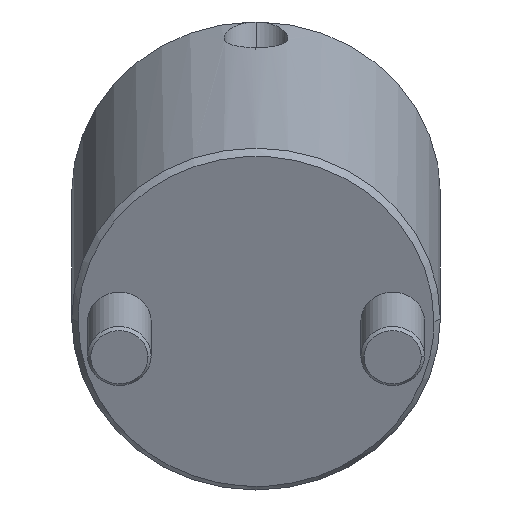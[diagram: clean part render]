
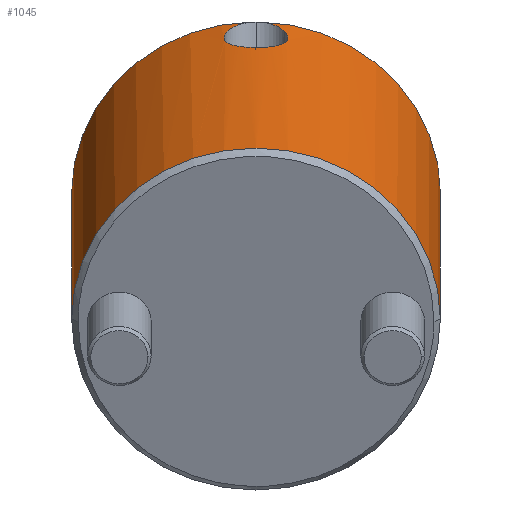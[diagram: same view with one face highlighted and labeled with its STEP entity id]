
A CAD part, front view. The second image highlights one B-rep face of the part: STEP entity #1045.
In plain terms, the highlighted cylindrical face has radius 29 mm (diameter 58 mm), a partial arc.
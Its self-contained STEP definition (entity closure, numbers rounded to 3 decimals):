
#772=CARTESIAN_POINT('Vertex',(0.,29.,1.)) ;
#775=CARTESIAN_POINT('Axis2P3D Location',(0.,0.,1.)) ;
#779=CARTESIAN_POINT('Vertex',(0.,-29.,1.)) ;
#931=CARTESIAN_POINT('Axis2P3D Location',(0.,0.,-2.75)) ;
#936=CARTESIAN_POINT('Axis2P3D Location',(0.,0.,54.)) ;
#940=CARTESIAN_POINT('Vertex',(28.994,-0.6,54.)) ;
#942=CARTESIAN_POINT('Vertex',(0.,-29.,54.)) ;
#945=CARTESIAN_POINT('Line Origine',(0.,-29.,-2.75)) ;
#950=CARTESIAN_POINT('Line Origine',(0.,29.,-2.75)) ;
#954=CARTESIAN_POINT('Vertex',(0.,29.,54.)) ;
#957=CARTESIAN_POINT('Axis2P3D Location',(0.,0.,54.)) ;
#961=CARTESIAN_POINT('Vertex',(28.994,0.6,54.)) ;
#965=CARTESIAN_POINT('Control Point',(28.994,0.6,54.)) ;
#966=CARTESIAN_POINT('Control Point',(28.985,1.008,53.943)) ;
#967=CARTESIAN_POINT('Control Point',(28.97,1.41,53.839)) ;
#968=CARTESIAN_POINT('Control Point',(28.948,1.802,53.688)) ;
#969=CARTESIAN_POINT('Control Point',(28.906,2.374,53.389)) ;
#970=CARTESIAN_POINT('Control Point',(28.856,2.896,52.996)) ;
#971=CARTESIAN_POINT('Control Point',(28.838,3.065,52.854)) ;
#972=CARTESIAN_POINT('Control Point',(28.793,3.477,52.468)) ;
#973=CARTESIAN_POINT('Control Point',(28.745,3.843,52.022)) ;
#974=CARTESIAN_POINT('Control Point',(28.717,4.046,51.733)) ;
#975=CARTESIAN_POINT('Control Point',(28.664,4.406,51.121)) ;
#976=CARTESIAN_POINT('Control Point',(28.621,4.673,50.461)) ;
#977=CARTESIAN_POINT('Control Point',(28.603,4.782,50.123)) ;
#978=CARTESIAN_POINT('Control Point',(28.575,4.948,49.432)) ;
#979=CARTESIAN_POINT('Control Point',(28.564,5.011,48.723)) ;
#980=CARTESIAN_POINT('Control Point',(28.563,5.015,48.368)) ;
#981=CARTESIAN_POINT('Control Point',(28.57,4.978,47.786)) ;
#982=CARTESIAN_POINT('Control Point',(28.588,4.869,47.223)) ;
#983=CARTESIAN_POINT('Control Point',(28.598,4.815,47.003)) ;
#984=CARTESIAN_POINT('Control Point',(28.62,4.683,46.572)) ;
#985=CARTESIAN_POINT('Control Point',(28.648,4.509,46.159)) ;
#986=CARTESIAN_POINT('Control Point',(28.663,4.411,45.958)) ;
#987=CARTESIAN_POINT('Control Point',(28.695,4.196,45.571)) ;
#988=CARTESIAN_POINT('Control Point',(28.731,3.943,45.212)) ;
#989=CARTESIAN_POINT('Control Point',(28.75,3.806,45.04)) ;
#990=CARTESIAN_POINT('Control Point',(28.806,3.372,44.548)) ;
#991=CARTESIAN_POINT('Control Point',(28.861,2.864,44.135)) ;
#992=CARTESIAN_POINT('Control Point',(28.896,2.496,43.899)) ;
#993=CARTESIAN_POINT('Control Point',(28.95,1.794,43.551)) ;
#994=CARTESIAN_POINT('Control Point',(28.984,1.039,43.348)) ;
#995=CARTESIAN_POINT('Control Point',(28.995,0.694,43.286)) ;
#996=CARTESIAN_POINT('Control Point',(29.,0.348,43.256)) ;
#997=CARTESIAN_POINT('Control Point',(29.,0.,43.256)) ;
#998=CARTESIAN_POINT('Vertex',(29.,0.,43.256)) ;
#1002=CARTESIAN_POINT('Control Point',(29.,0.,43.256)) ;
#1003=CARTESIAN_POINT('Control Point',(29.,-0.217,43.256)) ;
#1004=CARTESIAN_POINT('Control Point',(28.998,-0.433,43.268)) ;
#1005=CARTESIAN_POINT('Control Point',(28.994,-0.648,43.291)) ;
#1006=CARTESIAN_POINT('Control Point',(28.979,-1.182,43.38)) ;
#1007=CARTESIAN_POINT('Control Point',(28.953,-1.701,43.54)) ;
#1008=CARTESIAN_POINT('Control Point',(28.933,-2.002,43.661)) ;
#1009=CARTESIAN_POINT('Control Point',(28.896,-2.487,43.905)) ;
#1010=CARTESIAN_POINT('Control Point',(28.852,-2.933,44.213)) ;
#1011=CARTESIAN_POINT('Control Point',(28.834,-3.105,44.346)) ;
#1012=CARTESIAN_POINT('Control Point',(28.778,-3.599,44.773)) ;
#1013=CARTESIAN_POINT('Control Point',(28.722,-4.021,45.282)) ;
#1014=CARTESIAN_POINT('Control Point',(28.686,-4.265,45.65)) ;
#1015=CARTESIAN_POINT('Control Point',(28.638,-4.571,46.246)) ;
#1016=CARTESIAN_POINT('Control Point',(28.603,-4.782,46.886)) ;
#1017=CARTESIAN_POINT('Control Point',(28.593,-4.841,47.105)) ;
#1018=CARTESIAN_POINT('Control Point',(28.568,-4.986,47.778)) ;
#1019=CARTESIAN_POINT('Control Point',(28.561,-5.029,48.48)) ;
#1020=CARTESIAN_POINT('Control Point',(28.564,-5.008,48.955)) ;
#1021=CARTESIAN_POINT('Control Point',(28.591,-4.856,50.013)) ;
#1022=CARTESIAN_POINT('Control Point',(28.653,-4.482,51.003)) ;
#1023=CARTESIAN_POINT('Control Point',(28.697,-4.202,51.538)) ;
#1024=CARTESIAN_POINT('Control Point',(28.764,-3.725,52.213)) ;
#1025=CARTESIAN_POINT('Control Point',(28.829,-3.155,52.773)) ;
#1026=CARTESIAN_POINT('Control Point',(28.846,-2.988,52.919)) ;
#1027=CARTESIAN_POINT('Control Point',(28.881,-2.643,53.192)) ;
#1028=CARTESIAN_POINT('Control Point',(28.912,-2.275,53.423)) ;
#1029=CARTESIAN_POINT('Control Point',(28.926,-2.086,53.527)) ;
#1030=CARTESIAN_POINT('Control Point',(28.953,-1.685,53.721)) ;
#1031=CARTESIAN_POINT('Control Point',(28.973,-1.269,53.863)) ;
#1032=CARTESIAN_POINT('Control Point',(28.982,-1.047,53.923)) ;
#1033=CARTESIAN_POINT('Control Point',(28.989,-0.825,53.969)) ;
#1034=CARTESIAN_POINT('Control Point',(28.994,-0.6,54.)) ;
#776=DIRECTION('Axis2P3D Direction',(0.,0.,1.)) ;
#932=DIRECTION('Axis2P3D Direction',(0.,-0.,1.)) ;
#933=DIRECTION('Axis2P3D XDirection',(0.,-1.,0.)) ;
#937=DIRECTION('Axis2P3D Direction',(0.,-0.,1.)) ;
#946=DIRECTION('Vector Direction',(0.,0.,1.)) ;
#951=DIRECTION('Vector Direction',(0.,0.,1.)) ;
#958=DIRECTION('Axis2P3D Direction',(0.,-0.,1.)) ;
#777=AXIS2_PLACEMENT_3D('Circle Axis2P3D',#775,#776,$) ;
#934=AXIS2_PLACEMENT_3D('Cylinder Axis2P3D',#931,#932,#933) ;
#938=AXIS2_PLACEMENT_3D('Circle Axis2P3D',#936,#937,$) ;
#959=AXIS2_PLACEMENT_3D('Circle Axis2P3D',#957,#958,$) ;
#1037=ORIENTED_EDGE('',*,*,#944,.T.) ;
#1038=ORIENTED_EDGE('',*,*,#949,.T.) ;
#1039=ORIENTED_EDGE('',*,*,#781,.F.) ;
#1040=ORIENTED_EDGE('',*,*,#956,.F.) ;
#1041=ORIENTED_EDGE('',*,*,#963,.T.) ;
#1042=ORIENTED_EDGE('',*,*,#1000,.T.) ;
#1043=ORIENTED_EDGE('',*,*,#1035,.T.) ;
#947=VECTOR('Line Direction',#946,1.) ;
#952=VECTOR('Line Direction',#951,1.) ;
#1045=ADVANCED_FACE('MANIFOLD_SOLID_BREP #1169',(#1044),#935,.T.) ;
#964=B_SPLINE_CURVE_WITH_KNOTS('',5,(#965,#966,#967,#968,#969,#970,#971,#972,#973,#974,#975,#976,#977,#978,#979,#980,#981,#982,#983,#984,#985,#986,#987,#988,#989,#990,#991,#992,#993,#994,#995,#996,#997),.UNSPECIFIED.,.F.,.U.,(6,3,3,3,3,3,3,3,3,3,6),(0.,3.108,4.689,7.088,9.524,11.908,13.487,15.066,16.639,19.78,22.301),.UNSPECIFIED.) ;
#1001=B_SPLINE_CURVE_WITH_KNOTS('',5,(#1002,#1003,#1004,#1005,#1006,#1007,#1008,#1009,#1010,#1011,#1012,#1013,#1014,#1015,#1016,#1017,#1018,#1019,#1020,#1021,#1022,#1023,#1024,#1025,#1026,#1027,#1028,#1029,#1030,#1031,#1032,#1033,#1034),.UNSPECIFIED.,.F.,.U.,(6,3,3,3,3,3,3,3,3,3,6),(0.,1.571,3.927,5.495,8.649,10.224,13.413,17.443,19.027,20.593,22.304),.UNSPECIFIED.) ;
#778=CIRCLE('generated circle',#777,29.) ;
#939=CIRCLE('generated circle',#938,29.) ;
#960=CIRCLE('generated circle',#959,29.) ;
#935=CYLINDRICAL_SURFACE('generated cylinder',#934,29.) ;
#781=EDGE_CURVE('',#773,#780,#778,.F.) ;
#944=EDGE_CURVE('',#941,#943,#939,.F.) ;
#949=EDGE_CURVE('',#943,#780,#948,.F.) ;
#956=EDGE_CURVE('',#955,#773,#953,.F.) ;
#963=EDGE_CURVE('',#955,#962,#960,.F.) ;
#1000=EDGE_CURVE('',#962,#999,#964,.T.) ;
#1035=EDGE_CURVE('',#999,#941,#1001,.T.) ;
#1036=EDGE_LOOP('',(#1037,#1038,#1039,#1040,#1041,#1042,#1043)) ;
#1044=FACE_OUTER_BOUND('',#1036,.T.) ;
#948=LINE('Line',#945,#947) ;
#953=LINE('Line',#950,#952) ;
#773=VERTEX_POINT('',#772) ;
#780=VERTEX_POINT('',#779) ;
#941=VERTEX_POINT('',#940) ;
#943=VERTEX_POINT('',#942) ;
#955=VERTEX_POINT('',#954) ;
#962=VERTEX_POINT('',#961) ;
#999=VERTEX_POINT('',#998) ;
